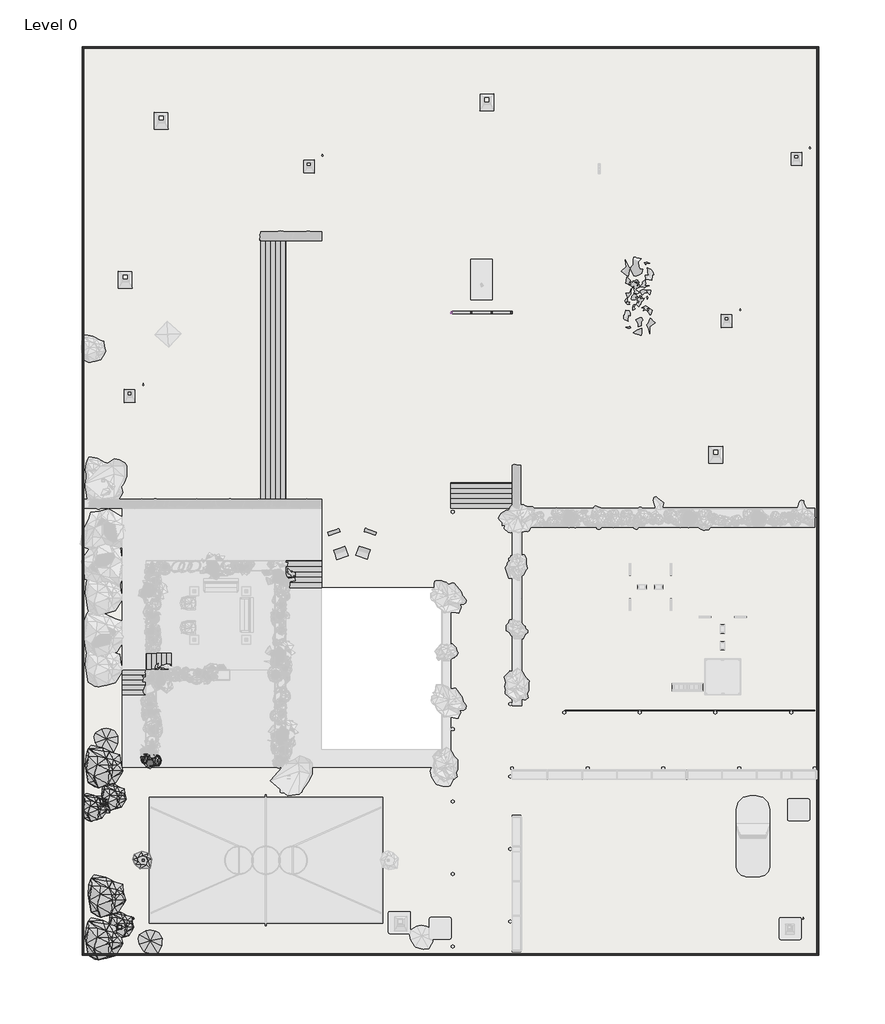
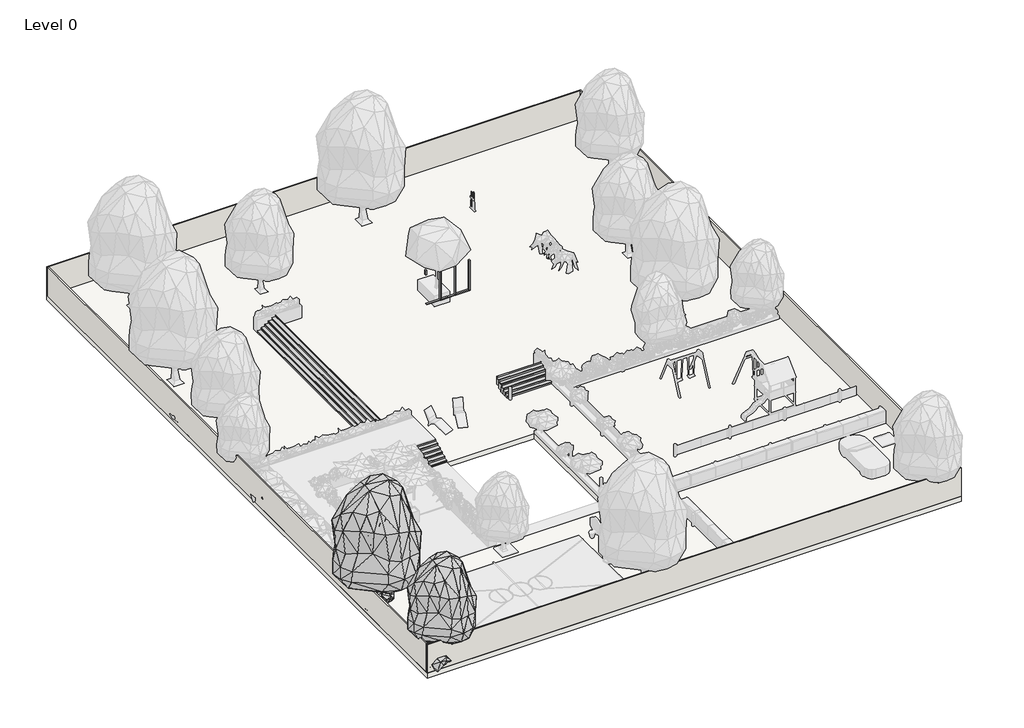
# One storey, part 1 of 4: 16 geographic elements, 7 members, 5 stair flights, 4 walls, 1 slab.
"""IFC4 building model written with IfcOpenShell, lengths in millimetres."""

from ifc_helpers import new_model, si_unit, frame, origin, origin_with_axes, place, context, project, spatial, polyline, outline, extrude, faceted_brep, transform, mapped, element, save
from components import geographic_element_f069a1d7, geographic_element_ee225f17, geographic_element_9647795e, geographic_element_db24e404, geographic_element_71cebea8, geographic_element_228c287f, geographic_element_56f19f58, enscape_assetdefinition_basketball_hoop_001_enscape_40e17c42, enscape_assetdefinition_bush_025_fern_enscape_5cccd865, enscape_assetdefinition_bush_030_grass_enscape_458df57b, enscape_assetdefinition_bush_031_grass_enscape_dda4791a, rectangular_mullion_rectangular_mullion_1_f0fea5a5, rectangular_mullion_rectangular_mullion_1_f5ac44b7, rectangular_mullion_rectangular_mullion_1_ee409385, rectangular_mullion_rectangular_mullion_1_09fd8405, rectangular_mullion_rectangular_mullion_1_2f44623a

model = new_model("IFC4")

# Units and contexts
model_context = context("Model", 3, world=origin())
ifc_project = project(units=[si_unit("LENGTHUNIT", "METRE", prefix="MILLI")], contexts=[model_context])

# Site, building, storey
site = spatial("IfcSite", under=ifc_project)
building = spatial("IfcBuilding", under=site)
storey = spatial("IfcBuildingStorey", under=building, Name="Level 0", Elevation=0.0)

# Geographic elements
placement = place(None, origin())
geographic_element_shape = geographic_element_f069a1d7(model_context)
element("IfcGeographicElement", 1, ObjectType="Enscape AssetDefinition - Creeper Plant 016 Bower Vine : Enscape AssetDefinition - Creeper Plant 016 Bower Vine", at=placement, inside=storey, context=model_context, shape_type="MappedRepresentation", body=[
    mapped(geographic_element_shape, transform((-3656.8662216, -16198.9668439, 950.0), x_axis=(0.0, -1.0, 0.0), y_axis=(1.0, 0.0, 0.0), z_axis=(0.0, 0.0, 1.0))),
])
geographic_element_2_shape = geographic_element_ee225f17(model_context)
element("IfcGeographicElement", 2, ObjectType="Enscape AssetDefinition - Flower 086 Cross-leaved Heath : Enscape AssetDefinition - Flower 086 Cross-leaved Heath 2", at=placement, inside=storey, context=model_context, shape_type="MappedRepresentation", body=[
    mapped(geographic_element_2_shape, transform((-3441.3358285, -16440.9854919, 950.0), x_axis=(1.0, 0.0, 0.0), y_axis=(0.0, 1.0, 0.0), z_axis=(0.0, 0.0, 1.0))),
])
geographic_element_3_shape = geographic_element_9647795e(model_context)
element("IfcGeographicElement", 3, ObjectType="Enscape AssetDefinition - Creeper Plant 015 Bower Vine : Enscape AssetDefinition - Creeper Plant 015 Bower Vine", at=placement, inside=storey, context=model_context, shape_type="MappedRepresentation", body=[
    mapped(geographic_element_3_shape, transform((-3056.8662216, -16275.3414027, 950.0), x_axis=(0.0, 1.0, 0.0), y_axis=(-1.0, 0.0, 0.0), z_axis=(0.0, 0.0, 1.0))),
])
geographic_element_4_shape = geographic_element_db24e404(model_context)
element("IfcGeographicElement", 4, ObjectType="Enscape AssetDefinition - Evergreen Tree 066 Lophostemon : Enscape AssetDefinition - Evergreen Tree 066 Lophostemon", at=placement, inside=storey, context=model_context, shape_type="MappedRepresentation", body=[
    mapped(geographic_element_4_shape, transform((-5056.8662216, -25633.0793342, 0.0), x_axis=(1.0, 0.0, 0.0), y_axis=(0.0, 1.0, 0.0), z_axis=(0.0, 0.0, 1.0))),
])
geographic_element_5_shape = geographic_element_71cebea8(model_context)
element("IfcGeographicElement", 5, ObjectType="Enscape AssetDefinition - Bush 012 English Laurel : Enscape AssetDefinition - Bush 012 English Laurel", at=placement, inside=storey, context=model_context, shape_type="MappedRepresentation", body=[
    mapped(geographic_element_5_shape, transform((-6010.1328373, -16585.7472574, 0.0), x_axis=(-0.7796599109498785, 0.626203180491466, 0.0), y_axis=(-0.626203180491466, -0.7796599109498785, 0.0), z_axis=(0.0, 0.0, 1.0))),
])
element("IfcGeographicElement", 6, ObjectType="Enscape AssetDefinition - Bush 012 English Laurel : Enscape AssetDefinition - Bush 012 English Laurel", at=placement, inside=storey, context=model_context, shape_type="MappedRepresentation", body=[
    mapped(geographic_element_5_shape, transform((-5853.2977099, -23796.0253008, 0.0), x_axis=(-0.7796599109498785, 0.626203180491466, 0.0), y_axis=(-0.626203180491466, -0.7796599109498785, 0.0), z_axis=(0.0, 0.0, 1.0))),
])
element("IfcGeographicElement", 7, ObjectType="Enscape AssetDefinition - Bush 012 English Laurel : Enscape AssetDefinition - Bush 012 English Laurel", at=placement, inside=storey, context=model_context, shape_type="MappedRepresentation", body=[
    mapped(geographic_element_5_shape, transform((-6010.1328373, -26185.7472574, 0.0), x_axis=(-0.7796599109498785, 0.626203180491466, 0.0), y_axis=(-0.626203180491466, -0.7796599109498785, 0.0), z_axis=(0.0, 0.0, 1.0))),
])
geographic_element_6_shape = geographic_element_228c287f(model_context)
element("IfcGeographicElement", 8, ObjectType="Enscape AssetDefinition - Bush 012 English Laurel : Enscape AssetDefinition - Bush 012 English Laurel 2", at=placement, inside=storey, context=model_context, shape_type="MappedRepresentation", body=[
    mapped(geographic_element_6_shape, transform((-6517.7916128, -18872.4537445, 0.0), x_axis=(-0.7796599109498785, 0.626203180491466, 0.0), y_axis=(-0.626203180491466, -0.7796599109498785, 0.0), z_axis=(0.0, 0.0, 1.0))),
])
element("IfcGeographicElement", 9, ObjectType="Enscape AssetDefinition - Bush 012 English Laurel : Enscape AssetDefinition - Bush 012 English Laurel 2", at=placement, inside=storey, context=model_context, shape_type="MappedRepresentation", body=[
    mapped(geographic_element_6_shape, transform((-5444.7004155, -18252.9042528, 0.0), x_axis=(-0.7796599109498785, 0.626203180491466, 0.0), y_axis=(-0.626203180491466, -0.7796599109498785, 0.0), z_axis=(0.0, 0.0, 1.0))),
])
element("IfcGeographicElement", 10, ObjectType="Enscape AssetDefinition - Bush 012 English Laurel : Enscape AssetDefinition - Bush 012 English Laurel 2", at=placement, inside=storey, context=model_context, shape_type="MappedRepresentation", body=[
    mapped(geographic_element_6_shape, transform((-5023.3671696, -25397.2769616, 0.0), x_axis=(-0.7796599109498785, 0.626203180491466, 0.0), y_axis=(-0.626203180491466, -0.7796599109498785, 0.0), z_axis=(0.0, 0.0, 1.0))),
])
geographic_element_7_shape = geographic_element_56f19f58(model_context)
element("IfcGeographicElement", 11, ObjectType="Enscape AssetDefinition - Evergreen Tree 066 Lophostemon : Enscape AssetDefinition - Evergreen Tree 066 Lophostemon 4", at=placement, inside=storey, context=model_context, shape_type="MappedRepresentation", body=[
    mapped(geographic_element_7_shape, transform((-5992.8294862, -18633.0793342, 0.0), x_axis=(1.0, 0.0, 0.0), y_axis=(0.0, 1.0, 0.0), z_axis=(0.0, 0.0, 1.0))),
])
enscape_assetdefinition_basketball_hoop_001_enscape_shape = enscape_assetdefinition_basketball_hoop_001_enscape_40e17c42(model_context)
element("IfcGeographicElement", 12, ObjectType="Enscape AssetDefinition - Basketball Hoop 001 : Enscape AssetDefinition - Basketball Hoop 001", at=placement, inside=storey, context=model_context, shape_type="MappedRepresentation", body=[
    mapped(enscape_assetdefinition_basketball_hoop_001_enscape_shape, transform((-3777.0670192, -21833.0793342, 0.0), x_axis=(0.0, 1.0, 0.0), y_axis=(-1.0, 0.0, 0.0), z_axis=(0.0, 0.0, 1.0))),
])
enscape_assetdefinition_bush_025_fern_enscape_shape = enscape_assetdefinition_bush_025_fern_enscape_5cccd865(model_context)
element("IfcGeographicElement", 13, ObjectType="Enscape AssetDefinition - Bush 025 Fern : Enscape AssetDefinition - Bush 025 Fern 3", at=placement, inside=storey, context=model_context, shape_type="MappedRepresentation", body=[
    mapped(enscape_assetdefinition_bush_025_fern_enscape_shape, transform((-3349.2962281, -16275.3414027, 761.4393554), x_axis=(0.0, -1.0, 0.0), y_axis=(1.0, 0.0, 0.0), z_axis=(0.0, 0.0, 1.0))),
])
enscape_assetdefinition_bush_030_grass_enscape_shape = enscape_assetdefinition_bush_030_grass_enscape_458df57b(model_context)
element("IfcGeographicElement", 14, ObjectType="Enscape AssetDefinition - Bush 030 Grass : Enscape AssetDefinition - Bush 030 Grass", at=placement, inside=storey, context=model_context, shape_type="MappedRepresentation", body=[
    mapped(enscape_assetdefinition_bush_030_grass_enscape_shape, transform((-3836.8662216, -21833.0793342, 0.0), x_axis=(1.0, 0.0, 0.0), y_axis=(0.0, 1.0, 0.0), z_axis=(0.0, 0.0, 1.0))),
])
enscape_assetdefinition_bush_031_grass_enscape_shape = enscape_assetdefinition_bush_031_grass_enscape_dda4791a(model_context)
element("IfcGeographicElement", 15, ObjectType="Enscape AssetDefinition - Bush 031 Grass : Enscape AssetDefinition - Bush 031 Grass", at=placement, inside=storey, context=model_context, shape_type="MappedRepresentation", body=[
    mapped(enscape_assetdefinition_bush_031_grass_enscape_shape, transform((-5856.8662216, -15144.7630328, 0.0), x_axis=(1.0, 0.0, 0.0), y_axis=(0.0, 1.0, 0.0), z_axis=(0.0, 0.0, 1.0))),
])
element("IfcGeographicElement", 16, ObjectType="Enscape AssetDefinition - Bush 031 Grass : Enscape AssetDefinition - Bush 031 Grass", at=placement, inside=storey, context=model_context, shape_type="MappedRepresentation", body=[
    mapped(enscape_assetdefinition_bush_031_grass_enscape_shape, transform((-3399.9708281, -26377.6231396, 0.0), x_axis=(1.0, 0.0, 0.0), y_axis=(0.0, 1.0, 0.0), z_axis=(0.0, 0.0, 1.0))),
])

# Members
rectangular_mullion_rectangular_mullion_1_shape = rectangular_mullion_rectangular_mullion_1_f0fea5a5(model_context)
element("IfcMember", 17, ObjectType="Rectangular Mullion : Rectangular Mullion 1", at=placement, inside=storey, context=model_context, shape_type="MappedRepresentation", body=[
    mapped(rectangular_mullion_rectangular_mullion_1_shape, transform((15609.4671116, 8666.9206658, 1000.0), x_axis=(1.0, 0.0, 0.0), y_axis=(0.0, -1.0, 0.0), z_axis=(0.0, 0.0, -1.0))),
])
element("IfcMember", 18, ObjectType="Rectangular Mullion : Rectangular Mullion 1", at=placement, inside=storey, context=model_context, shape_type="MappedRepresentation", body=[
    mapped(rectangular_mullion_rectangular_mullion_1_shape, transform((14475.8004451, 8666.9206658, 1000.0), x_axis=(1.0, 0.0, 0.0), y_axis=(0.0, -1.0, 0.0), z_axis=(0.0, 0.0, -1.0))),
])
rectangular_mullion_rectangular_mullion_1_2_shape = rectangular_mullion_rectangular_mullion_1_f5ac44b7(model_context)
element("IfcMember", 19, ObjectType="Rectangular Mullion : Rectangular Mullion 1", at=placement, inside=storey, context=model_context, shape_type="MappedRepresentation", body=[
    mapped(rectangular_mullion_rectangular_mullion_1_2_shape, transform((13342.1337784, 8666.9206658, 3800.0), x_axis=(-1.0, 0.0, 0.0), y_axis=(0.0, -1.0, 0.0), z_axis=(0.0, 0.0, 1.0))),
])
rectangular_mullion_rectangular_mullion_1_3_shape = rectangular_mullion_rectangular_mullion_1_ee409385(model_context)
element("IfcMember", 20, ObjectType="Rectangular Mullion : Rectangular Mullion 1", at=placement, inside=storey, context=model_context, shape_type="MappedRepresentation", body=[
    mapped(rectangular_mullion_rectangular_mullion_1_3_shape, transform((16743.1337784, 8666.9206658, 1000.0), x_axis=(1.0, 0.0, 0.0), y_axis=(0.0, -1.0, 0.0), z_axis=(0.0, 0.0, -1.0))),
])
rectangular_mullion_rectangular_mullion_1_4_shape = rectangular_mullion_rectangular_mullion_1_09fd8405(model_context)
element("IfcMember", 21, ObjectType="Rectangular Mullion : Rectangular Mullion 1", at=placement, inside=storey, context=model_context, shape_type="MappedRepresentation", body=[
    mapped(rectangular_mullion_rectangular_mullion_1_4_shape, transform((15641.2171116, 8666.9206658, 1000.0), x_axis=(0.0, 0.0, -1.0), y_axis=(0.0, -1.0, 0.0), z_axis=(-1.0, 0.0, 0.0))),
])
element("IfcMember", 22, ObjectType="Rectangular Mullion : Rectangular Mullion 1", at=placement, inside=storey, context=model_context, shape_type="MappedRepresentation", body=[
    mapped(rectangular_mullion_rectangular_mullion_1_4_shape, transform((13405.6337784, 8666.9206658, 1000.0), x_axis=(0.0, 0.0, -1.0), y_axis=(0.0, -1.0, 0.0), z_axis=(-1.0, 0.0, 0.0))),
])
rectangular_mullion_rectangular_mullion_1_5_shape = rectangular_mullion_rectangular_mullion_1_2f44623a(model_context)
element("IfcMember", 23, ObjectType="Rectangular Mullion : Rectangular Mullion 1", at=placement, inside=storey, context=model_context, shape_type="MappedRepresentation", body=[
    mapped(rectangular_mullion_rectangular_mullion_1_5_shape, transform((14507.5504451, 8666.9206658, 1000.0), x_axis=(0.0, 0.0, -1.0), y_axis=(0.0, -1.0, 0.0), z_axis=(-1.0, 0.0, 0.0))),
])

# Slab
element("IfcSlab", 24, ObjectType="Concrete Slab - 6\"", at=placement, inside=storey, context=model_context, shape_type="SweptSolid", body=[
    extrude(outline(polyline([(-7192.8294862, 23466.9206658), (33807.1705138, 23466.9206658), (33807.1705138, -27133.0793342), (-7192.8294862, -27133.0793342), (-7192.8294862, 23466.9206658)]), holes=[polyline([(12843.1337784, -6658.2564752), (6143.1337784, -6658.2564752), (6143.1337784, -15658.2564752), (12843.1337784, -15658.2564752), (12843.1337784, -6658.2564752)])]), frame((0.0, 0.0, -400.0), z_axis=(0.0, 0.0, 1.0), x_axis=(1.0, 0.0, 0.0)), (0.0, 0.0, 1.0), 400.0),
])

# Stair flights
element("IfcStairFlight", 25, ObjectType="3/4\" Nosing", at=placement, inside=storey, context=model_context, shape_type="SolidModel", body=[
    faceted_brep([(13343.1337784, -1947.3293342, 115.8666667), (13343.1337784, -2226.7293342, 115.8666667), (16743.1337784, -2226.7293342, 115.8666667), (16743.1337784, -1947.3293342, 115.8666667), (13343.1337784, -1947.3293342, 0.0), (13343.1337784, -2226.7293342, 0.0), (16743.1337784, -2226.7293342, 0.0), (16743.1337784, -1947.3293342, 0.0), (13343.1337784, -1667.9293342, 282.5333333), (13343.1337784, -1947.3293342, 282.5333333), (16743.1337784, -1947.3293342, 282.5333333), (16743.1337784, -1667.9293342, 282.5333333), (13343.1337784, -1667.9293342, 0.0), (16743.1337784, -1667.9293342, 0.0), (13343.1337784, -1388.5293342, 449.2), (13343.1337784, -1667.9293342, 449.2), (16743.1337784, -1667.9293342, 449.2), (16743.1337784, -1388.5293342, 449.2), (13343.1337784, -1388.5293342, 0.0), (16743.1337784, -1388.5293342, 0.0), (13343.1337784, -1109.1293342, 615.8666667), (13343.1337784, -1388.5293342, 615.8666667), (16743.1337784, -1388.5293342, 615.8666667), (16743.1337784, -1109.1293342, 615.8666667), (13343.1337784, -1109.1293342, 149.2), (13343.1337784, -1367.9293342, 149.2), (13343.1337784, -1367.9293342, 0.0), (16743.1337784, -1367.9293342, 0.0), (16743.1337784, -1367.9293342, 149.2), (16743.1337784, -1109.1293342, 149.2), (13343.1337784, -829.7293342, 782.5333333), (13343.1337784, -1109.1293342, 782.5333333), (16743.1337784, -1109.1293342, 782.5333333), (16743.1337784, -829.7293342, 782.5333333), (13343.1337784, -829.7293342, 315.8666667), (13343.1337784, -1088.5293342, 315.8666667), (13343.1337784, -1088.5293342, 149.2), (16743.1337784, -1088.5293342, 149.2), (16743.1337784, -1088.5293342, 315.8666667), (16743.1337784, -829.7293342, 315.8666667)], [[[0, 1, 2, 3]], [[1, 0, 4, 5]], [[2, 1, 5, 6]], [[3, 2, 6, 7]], [[8, 9, 10, 11]], [[4, 0, 9, 8, 12]], [[0, 3, 10, 9]], [[3, 7, 13, 11, 10]], [[14, 15, 16, 17]], [[12, 8, 15, 14, 18]], [[8, 11, 16, 15]], [[11, 13, 19, 17, 16]], [[20, 21, 22, 23]], [[18, 14, 21, 20, 24, 25, 26]], [[14, 17, 22, 21]], [[17, 19, 27, 28, 29, 23, 22]], [[30, 31, 32, 33]], [[31, 30, 34, 35, 36, 24, 20]], [[20, 23, 32, 31]], [[33, 32, 23, 29, 37, 38, 39]], [[30, 33, 39, 34]], [[5, 4, 12, 18, 26, 27, 19, 13, 7, 6]], [[25, 28, 27, 26]], [[36, 37, 29, 28, 25, 24]], [[37, 36, 35, 38]], [[38, 35, 34, 39]]]),
    extrude(outline(polyline([(13343.1337784, -1953.6793342), (16743.1337784, -1953.6793342), (16743.1337784, -2233.0793342), (13343.1337784, -2233.0793342), (13343.1337784, -1953.6793342)])), frame((0.0, 0.0, 115.8666667), z_axis=(0.0, 0.0, 1.0), x_axis=(1.0, 0.0, 0.0)), (0.0, 0.0, 1.0), 50.8),
    extrude(outline(polyline([(16743.1337784, -2226.7293342), (16743.1337784, -2233.0793342), (13343.1337784, -2233.0793342), (13343.1337784, -2226.7293342), (16743.1337784, -2226.7293342)])), origin_with_axes(), (0.0, 0.0, 1.0), 115.8666667),
    extrude(outline(polyline([(16743.1337784, -1947.3293342), (16743.1337784, -1953.6793342), (13343.1337784, -1953.6793342), (13343.1337784, -1947.3293342), (16743.1337784, -1947.3293342)])), frame((0.0, 0.0, 115.8666667), z_axis=(0.0, 0.0, 1.0), x_axis=(1.0, 0.0, 0.0)), (0.0, 0.0, 1.0), 166.6666667),
    extrude(outline(polyline([(13343.1337784, -1674.2793342), (16743.1337784, -1674.2793342), (16743.1337784, -1953.6793342), (13343.1337784, -1953.6793342), (13343.1337784, -1674.2793342)])), frame((0.0, 0.0, 282.5333333), z_axis=(0.0, 0.0, 1.0), x_axis=(1.0, 0.0, 0.0)), (0.0, 0.0, 1.0), 50.8),
    extrude(outline(polyline([(16743.1337784, -1667.9293342), (16743.1337784, -1674.2793342), (13343.1337784, -1674.2793342), (13343.1337784, -1667.9293342), (16743.1337784, -1667.9293342)])), frame((0.0, 0.0, 282.5333333), z_axis=(0.0, 0.0, 1.0), x_axis=(1.0, 0.0, 0.0)), (0.0, 0.0, 1.0), 166.6666667),
    extrude(outline(polyline([(13343.1337784, -1394.8793342), (16743.1337784, -1394.8793342), (16743.1337784, -1674.2793342), (13343.1337784, -1674.2793342), (13343.1337784, -1394.8793342)])), frame((0.0, 0.0, 449.2), z_axis=(0.0, 0.0, 1.0), x_axis=(1.0, 0.0, 0.0)), (0.0, 0.0, 1.0), 50.8),
    extrude(outline(polyline([(16743.1337784, -1388.5293342), (16743.1337784, -1394.8793342), (13343.1337784, -1394.8793342), (13343.1337784, -1388.5293342), (16743.1337784, -1388.5293342)])), frame((0.0, 0.0, 449.2), z_axis=(0.0, 0.0, 1.0), x_axis=(1.0, 0.0, 0.0)), (0.0, 0.0, 1.0), 166.6666667),
    extrude(outline(polyline([(13343.1337784, -1115.4793342), (16743.1337784, -1115.4793342), (16743.1337784, -1394.8793342), (13343.1337784, -1394.8793342), (13343.1337784, -1115.4793342)])), frame((0.0, 0.0, 615.8666667), z_axis=(0.0, 0.0, 1.0), x_axis=(1.0, 0.0, 0.0)), (0.0, 0.0, 1.0), 50.8),
    extrude(outline(polyline([(16743.1337784, -1109.1293342), (16743.1337784, -1115.4793342), (13343.1337784, -1115.4793342), (13343.1337784, -1109.1293342), (16743.1337784, -1109.1293342)])), frame((0.0, 0.0, 615.8666667), z_axis=(0.0, 0.0, 1.0), x_axis=(1.0, 0.0, 0.0)), (0.0, 0.0, 1.0), 166.6666667),
    extrude(outline(polyline([(16743.1337784, -829.7293342), (16743.1337784, -836.0793342), (13343.1337784, -836.0793342), (13343.1337784, -829.7293342), (16743.1337784, -829.7293342)])), frame((0.0, 0.0, 782.5333333), z_axis=(0.0, 0.0, 1.0), x_axis=(1.0, 0.0, 0.0)), (0.0, 0.0, 1.0), 166.6666667),
    extrude(outline(polyline([(13343.1337784, -836.0793342), (16743.1337784, -836.0793342), (16743.1337784, -1115.4793342), (13343.1337784, -1115.4793342), (13343.1337784, -836.0793342)])), frame((0.0, 0.0, 782.5333333), z_axis=(0.0, 0.0, 1.0), x_axis=(1.0, 0.0, 0.0)), (0.0, 0.0, 1.0), 50.8),
])
element("IfcStairFlight", 26, ObjectType="3/4\" Nosing", at=placement, inside=storey, context=model_context, shape_type="SolidModel", body=[
    faceted_brep([(4142.6806272, -6351.9064752, 115.8666667), (4142.6806272, -6651.9064752, 115.8666667), (6142.6806272, -6651.9064752, 115.8666667), (6142.6806272, -6351.9064752, 115.8666667), (4142.6806272, -6351.9064752, 0.0), (4142.6806272, -6651.9064752, 0.0), (6142.6806272, -6651.9064752, 0.0), (6142.6806272, -6351.9064752, 0.0), (4142.6806272, -6051.9064752, 282.5333333), (4142.6806272, -6351.9064752, 282.5333333), (6142.6806272, -6351.9064752, 282.5333333), (6142.6806272, -6051.9064752, 282.5333333), (4142.6806272, -6051.9064752, 0.0), (6142.6806272, -6051.9064752, 0.0), (4142.6806272, -5751.9064752, 449.2), (4142.6806272, -6051.9064752, 449.2), (6142.6806272, -6051.9064752, 449.2), (6142.6806272, -5751.9064752, 449.2), (4142.6806272, -5751.9064752, 149.2), (4142.6806272, -5751.9064752, 0.0), (6142.6806272, -5751.9064752, 0.0), (6142.6806272, -5751.9064752, 149.2), (4142.6806272, -5451.9064752, 615.8666667), (4142.6806272, -5751.9064752, 615.8666667), (6142.6806272, -5751.9064752, 615.8666667), (6142.6806272, -5451.9064752, 615.8666667), (4142.6806272, -5451.9064752, 315.8666667), (4142.6806272, -5451.9064752, 149.2), (6142.6806272, -5451.9064752, 149.2), (6142.6806272, -5451.9064752, 315.8666667), (4142.6806272, -5151.9064752, 782.5333333), (4142.6806272, -5451.9064752, 782.5333333), (6142.6806272, -5451.9064752, 782.5333333), (6142.6806272, -5151.9064752, 782.5333333), (4142.6806272, -5151.9064752, 482.5333333), (4142.6806272, -5151.9064752, 315.8666667), (6142.6806272, -5151.9064752, 315.8666667), (6142.6806272, -5151.9064752, 482.5333333)], [[[0, 1, 2, 3]], [[1, 0, 4, 5]], [[2, 1, 5, 6]], [[3, 2, 6, 7]], [[8, 9, 10, 11]], [[4, 0, 9, 8, 12]], [[0, 3, 10, 9]], [[3, 7, 13, 11, 10]], [[14, 15, 16, 17]], [[12, 8, 15, 14, 18, 19]], [[8, 11, 16, 15]], [[11, 13, 20, 21, 17, 16]], [[22, 23, 24, 25]], [[23, 22, 26, 27, 18, 14]], [[14, 17, 24, 23]], [[25, 24, 17, 21, 28, 29]], [[30, 31, 32, 33]], [[31, 30, 34, 35, 26, 22]], [[22, 25, 32, 31]], [[33, 32, 25, 29, 36, 37]], [[30, 33, 37, 36, 35, 34]], [[5, 4, 12, 19, 20, 13, 7, 6]], [[18, 21, 20, 19]], [[27, 28, 21, 18]], [[28, 27, 26, 29]], [[29, 26, 35, 36]]]),
    extrude(outline(polyline([(4142.6806272, -6358.2564752), (6142.6806272, -6358.2564752), (6142.6806272, -6658.2564752), (4142.6806272, -6658.2564752), (4142.6806272, -6358.2564752)])), frame((0.0, 0.0, 115.8666667), z_axis=(0.0, 0.0, 1.0), x_axis=(1.0, 0.0, 0.0)), (0.0, 0.0, 1.0), 50.8),
    extrude(outline(polyline([(6142.6806272, -6651.9064752), (6142.6806272, -6658.2564752), (4142.6806272, -6658.2564752), (4142.6806272, -6651.9064752), (6142.6806272, -6651.9064752)])), origin_with_axes(), (0.0, 0.0, 1.0), 115.8666667),
    extrude(outline(polyline([(6142.6806272, -6351.9064752), (6142.6806272, -6358.2564752), (4142.6806272, -6358.2564752), (4142.6806272, -6351.9064752), (6142.6806272, -6351.9064752)])), frame((0.0, 0.0, 115.8666667), z_axis=(0.0, 0.0, 1.0), x_axis=(1.0, 0.0, 0.0)), (0.0, 0.0, 1.0), 166.6666667),
    extrude(outline(polyline([(4142.6806272, -6058.2564752), (6142.6806272, -6058.2564752), (6142.6806272, -6358.2564752), (4142.6806272, -6358.2564752), (4142.6806272, -6058.2564752)])), frame((0.0, 0.0, 282.5333333), z_axis=(0.0, 0.0, 1.0), x_axis=(1.0, 0.0, 0.0)), (0.0, 0.0, 1.0), 50.8),
    extrude(outline(polyline([(6142.6806272, -6051.9064752), (6142.6806272, -6058.2564752), (4142.6806272, -6058.2564752), (4142.6806272, -6051.9064752), (6142.6806272, -6051.9064752)])), frame((0.0, 0.0, 282.5333333), z_axis=(0.0, 0.0, 1.0), x_axis=(1.0, 0.0, 0.0)), (0.0, 0.0, 1.0), 166.6666667),
    extrude(outline(polyline([(4142.6806272, -5758.2564752), (6142.6806272, -5758.2564752), (6142.6806272, -6058.2564752), (4142.6806272, -6058.2564752), (4142.6806272, -5758.2564752)])), frame((0.0, 0.0, 449.2), z_axis=(0.0, 0.0, 1.0), x_axis=(1.0, 0.0, 0.0)), (0.0, 0.0, 1.0), 50.8),
    extrude(outline(polyline([(6142.6806272, -5751.9064752), (6142.6806272, -5758.2564752), (4142.6806272, -5758.2564752), (4142.6806272, -5751.9064752), (6142.6806272, -5751.9064752)])), frame((0.0, 0.0, 449.2), z_axis=(0.0, 0.0, 1.0), x_axis=(1.0, 0.0, 0.0)), (0.0, 0.0, 1.0), 166.6666667),
    extrude(outline(polyline([(4142.6806272, -5458.2564752), (6142.6806272, -5458.2564752), (6142.6806272, -5758.2564752), (4142.6806272, -5758.2564752), (4142.6806272, -5458.2564752)])), frame((0.0, 0.0, 615.8666667), z_axis=(0.0, 0.0, 1.0), x_axis=(1.0, 0.0, 0.0)), (0.0, 0.0, 1.0), 50.8),
    extrude(outline(polyline([(6142.6806272, -5451.9064752), (6142.6806272, -5458.2564752), (4142.6806272, -5458.2564752), (4142.6806272, -5451.9064752), (6142.6806272, -5451.9064752)])), frame((0.0, 0.0, 615.8666667), z_axis=(0.0, 0.0, 1.0), x_axis=(1.0, 0.0, 0.0)), (0.0, 0.0, 1.0), 166.6666667),
    extrude(outline(polyline([(6142.6806272, -5151.9064752), (6142.6806272, -5158.2564752), (4142.6806272, -5158.2564752), (4142.6806272, -5151.9064752), (6142.6806272, -5151.9064752)])), frame((0.0, 0.0, 782.5333333), z_axis=(0.0, 0.0, 1.0), x_axis=(1.0, 0.0, 0.0)), (0.0, 0.0, 1.0), 166.6666667),
    extrude(outline(polyline([(4142.6806272, -5158.2564752), (6142.6806272, -5158.2564752), (6142.6806272, -5458.2564752), (4142.6806272, -5458.2564752), (4142.6806272, -5158.2564752)])), frame((0.0, 0.0, 782.5333333), z_axis=(0.0, 0.0, 1.0), x_axis=(1.0, 0.0, 0.0)), (0.0, 0.0, 1.0), 50.8),
])
element("IfcStairFlight", 27, ObjectType="3/4\" Nosing", at=placement, inside=storey, context=model_context, shape_type="SolidModel", body=[
    faceted_brep([(-2520.2162216, -11218.4130328, 282.5333333), (-2240.8162216, -11218.4130328, 282.5333333), (-2240.8162216, -10304.0130328, 282.5333333), (-2520.2162216, -10304.0130328, 282.5333333), (-2520.2162216, -11218.4130328, 200.0), (-2240.8162216, -11218.4130328, 200.0), (-2240.8162216, -10304.0130328, 200.0), (-2520.2162216, -10304.0130328, 200.0), (-2799.6162216, -11218.4130328, 415.8666667), (-2520.2162216, -11218.4130328, 415.8666667), (-2520.2162216, -10304.0130328, 415.8666667), (-2799.6162216, -10304.0130328, 415.8666667), (-2799.6162216, -11218.4130328, 200.0), (-2799.6162216, -10304.0130328, 200.0), (-3079.0162216, -11218.4130328, 549.2), (-2799.6162216, -11218.4130328, 549.2), (-2799.6162216, -10304.0130328, 549.2), (-3079.0162216, -10304.0130328, 549.2), (-3079.0162216, -11218.4130328, 200.0), (-3079.0162216, -10304.0130328, 200.0), (-3358.4162216, -11218.4130328, 682.5333333), (-3079.0162216, -11218.4130328, 682.5333333), (-3079.0162216, -10304.0130328, 682.5333333), (-3358.4162216, -10304.0130328, 682.5333333), (-3358.4162216, -11218.4130328, 249.2), (-3099.6162216, -11218.4130328, 249.2), (-3099.6162216, -11218.4130328, 200.0), (-3099.6162216, -10304.0130328, 200.0), (-3099.6162216, -10304.0130328, 249.2), (-3358.4162216, -10304.0130328, 249.2), (-3637.8162216, -11218.4130328, 815.8666667), (-3358.4162216, -11218.4130328, 815.8666667), (-3358.4162216, -10304.0130328, 815.8666667), (-3637.8162216, -10304.0130328, 815.8666667), (-3637.8162216, -11218.4130328, 382.5333333), (-3379.0162216, -11218.4130328, 382.5333333), (-3379.0162216, -11218.4130328, 249.2), (-3379.0162216, -10304.0130328, 249.2), (-3379.0162216, -10304.0130328, 382.5333333), (-3637.8162216, -10304.0130328, 382.5333333)], [[[0, 1, 2, 3]], [[1, 0, 4, 5]], [[2, 1, 5, 6]], [[3, 2, 6, 7]], [[8, 9, 10, 11]], [[4, 0, 9, 8, 12]], [[0, 3, 10, 9]], [[3, 7, 13, 11, 10]], [[14, 15, 16, 17]], [[12, 8, 15, 14, 18]], [[8, 11, 16, 15]], [[11, 13, 19, 17, 16]], [[20, 21, 22, 23]], [[18, 14, 21, 20, 24, 25, 26]], [[14, 17, 22, 21]], [[17, 19, 27, 28, 29, 23, 22]], [[30, 31, 32, 33]], [[31, 30, 34, 35, 36, 24, 20]], [[20, 23, 32, 31]], [[33, 32, 23, 29, 37, 38, 39]], [[30, 33, 39, 34]], [[5, 4, 12, 18, 26, 27, 19, 13, 7, 6]], [[25, 28, 27, 26]], [[36, 37, 29, 28, 25, 24]], [[37, 36, 35, 38]], [[38, 35, 34, 39]]]),
    extrude(outline(polyline([(-2513.8662216, -11218.4130328), (-2513.8662216, -10304.0130328), (-2234.4662216, -10304.0130328), (-2234.4662216, -11218.4130328), (-2513.8662216, -11218.4130328)])), frame((0.0, 0.0, 282.5333333), z_axis=(0.0, 0.0, 1.0), x_axis=(1.0, 0.0, 0.0)), (0.0, 0.0, 1.0), 50.8),
    extrude(outline(polyline([(-2240.8162216, -10304.0130328), (-2234.4662216, -10304.0130328), (-2234.4662216, -11218.4130328), (-2240.8162216, -11218.4130328), (-2240.8162216, -10304.0130328)])), frame((0.0, 0.0, 200.0), z_axis=(0.0, 0.0, 1.0), x_axis=(1.0, 0.0, 0.0)), (0.0, 0.0, 1.0), 82.5333333),
    extrude(outline(polyline([(-2520.2162216, -10304.0130328), (-2513.8662216, -10304.0130328), (-2513.8662216, -11218.4130328), (-2520.2162216, -11218.4130328), (-2520.2162216, -10304.0130328)])), frame((0.0, 0.0, 282.5333333), z_axis=(0.0, 0.0, 1.0), x_axis=(1.0, 0.0, 0.0)), (0.0, 0.0, 1.0), 133.3333333),
    extrude(outline(polyline([(-2793.2662216, -11218.4130328), (-2793.2662216, -10304.0130328), (-2513.8662216, -10304.0130328), (-2513.8662216, -11218.4130328), (-2793.2662216, -11218.4130328)])), frame((0.0, 0.0, 415.8666667), z_axis=(0.0, 0.0, 1.0), x_axis=(1.0, 0.0, 0.0)), (0.0, 0.0, 1.0), 50.8),
    extrude(outline(polyline([(-2799.6162216, -10304.0130328), (-2793.2662216, -10304.0130328), (-2793.2662216, -11218.4130328), (-2799.6162216, -11218.4130328), (-2799.6162216, -10304.0130328)])), frame((0.0, 0.0, 415.8666667), z_axis=(0.0, 0.0, 1.0), x_axis=(1.0, 0.0, 0.0)), (0.0, 0.0, 1.0), 133.3333333),
    extrude(outline(polyline([(-3072.6662216, -11218.4130328), (-3072.6662216, -10304.0130328), (-2793.2662216, -10304.0130328), (-2793.2662216, -11218.4130328), (-3072.6662216, -11218.4130328)])), frame((0.0, 0.0, 549.2), z_axis=(0.0, 0.0, 1.0), x_axis=(1.0, 0.0, 0.0)), (0.0, 0.0, 1.0), 50.8),
    extrude(outline(polyline([(-3079.0162216, -10304.0130328), (-3072.6662216, -10304.0130328), (-3072.6662216, -11218.4130328), (-3079.0162216, -11218.4130328), (-3079.0162216, -10304.0130328)])), frame((0.0, 0.0, 549.2), z_axis=(0.0, 0.0, 1.0), x_axis=(1.0, 0.0, 0.0)), (0.0, 0.0, 1.0), 133.3333333),
    extrude(outline(polyline([(-3352.0662216, -11218.4130328), (-3352.0662216, -10304.0130328), (-3072.6662216, -10304.0130328), (-3072.6662216, -11218.4130328), (-3352.0662216, -11218.4130328)])), frame((0.0, 0.0, 682.5333333), z_axis=(0.0, 0.0, 1.0), x_axis=(1.0, 0.0, 0.0)), (0.0, 0.0, 1.0), 50.8),
    extrude(outline(polyline([(-3358.4162216, -10304.0130328), (-3352.0662216, -10304.0130328), (-3352.0662216, -11218.4130328), (-3358.4162216, -11218.4130328), (-3358.4162216, -10304.0130328)])), frame((0.0, 0.0, 682.5333333), z_axis=(0.0, 0.0, 1.0), x_axis=(1.0, 0.0, 0.0)), (0.0, 0.0, 1.0), 133.3333333),
    extrude(outline(polyline([(-3637.8162216, -10304.0130328), (-3631.4662216, -10304.0130328), (-3631.4662216, -11218.4130328), (-3637.8162216, -11218.4130328), (-3637.8162216, -10304.0130328)])), frame((0.0, 0.0, 815.8666667), z_axis=(0.0, 0.0, 1.0), x_axis=(1.0, 0.0, 0.0)), (0.0, 0.0, 1.0), 133.3333333),
    extrude(outline(polyline([(-3631.4662216, -11218.4130328), (-3631.4662216, -10304.0130328), (-3352.0662216, -10304.0130328), (-3352.0662216, -11218.4130328), (-3631.4662216, -11218.4130328)])), frame((0.0, 0.0, 815.8666667), z_axis=(0.0, 0.0, 1.0), x_axis=(1.0, 0.0, 0.0)), (0.0, 0.0, 1.0), 50.8),
])
element("IfcStairFlight", 28, ObjectType="3/4\" Nosing", at=placement, inside=storey, context=model_context, shape_type="SolidModel", body=[
    faceted_brep([(-4956.8662216, -12336.0130328, 199.2), (-4956.8662216, -12615.4130328, 199.2), (-3656.8662216, -12615.4130328, 199.2), (-3656.8662216, -12336.0130328, 199.2), (-4956.8662216, -12336.0130328, 100.0), (-4956.8662216, -12615.4130328, 100.0), (-3656.8662216, -12615.4130328, 100.0), (-3656.8662216, -12336.0130328, 100.0), (-4956.8662216, -12056.6130328, 349.2), (-4956.8662216, -12336.0130328, 349.2), (-3656.8662216, -12336.0130328, 349.2), (-3656.8662216, -12056.6130328, 349.2), (-4956.8662216, -12056.6130328, 100.0), (-3656.8662216, -12056.6130328, 100.0), (-4956.8662216, -11777.2130328, 499.2), (-4956.8662216, -12056.6130328, 499.2), (-3656.8662216, -12056.6130328, 499.2), (-3656.8662216, -11777.2130328, 499.2), (-4956.8662216, -11777.2130328, 100.0), (-3656.8662216, -11777.2130328, 100.0), (-4956.8662216, -11497.8130328, 649.2), (-4956.8662216, -11777.2130328, 649.2), (-3656.8662216, -11777.2130328, 649.2), (-3656.8662216, -11497.8130328, 649.2), (-4956.8662216, -11497.8130328, 199.2), (-4956.8662216, -11756.6130328, 199.2), (-4956.8662216, -11756.6130328, 100.0), (-3656.8662216, -11756.6130328, 100.0), (-3656.8662216, -11756.6130328, 199.2), (-3656.8662216, -11497.8130328, 199.2), (-4956.8662216, -11218.4130328, 799.2), (-4956.8662216, -11497.8130328, 799.2), (-3656.8662216, -11497.8130328, 799.2), (-3656.8662216, -11218.4130328, 799.2), (-4956.8662216, -11218.4130328, 349.2), (-4956.8662216, -11477.2130328, 349.2), (-4956.8662216, -11477.2130328, 199.2), (-3656.8662216, -11477.2130328, 199.2), (-3656.8662216, -11477.2130328, 349.2), (-3656.8662216, -11218.4130328, 349.2)], [[[0, 1, 2, 3]], [[1, 0, 4, 5]], [[2, 1, 5, 6]], [[3, 2, 6, 7]], [[8, 9, 10, 11]], [[4, 0, 9, 8, 12]], [[0, 3, 10, 9]], [[3, 7, 13, 11, 10]], [[14, 15, 16, 17]], [[12, 8, 15, 14, 18]], [[8, 11, 16, 15]], [[11, 13, 19, 17, 16]], [[20, 21, 22, 23]], [[18, 14, 21, 20, 24, 25, 26]], [[14, 17, 22, 21]], [[17, 19, 27, 28, 29, 23, 22]], [[30, 31, 32, 33]], [[31, 30, 34, 35, 36, 24, 20]], [[20, 23, 32, 31]], [[33, 32, 23, 29, 37, 38, 39]], [[30, 33, 39, 34]], [[5, 4, 12, 18, 26, 27, 19, 13, 7, 6]], [[25, 28, 27, 26]], [[36, 37, 29, 28, 25, 24]], [[37, 36, 35, 38]], [[38, 35, 34, 39]]]),
    extrude(outline(polyline([(-4956.8662216, -12342.3630328), (-3656.8662216, -12342.3630328), (-3656.8662216, -12621.7630328), (-4956.8662216, -12621.7630328), (-4956.8662216, -12342.3630328)])), frame((0.0, 0.0, 199.2), z_axis=(0.0, 0.0, 1.0), x_axis=(1.0, 0.0, 0.0)), (0.0, 0.0, 1.0), 50.8),
    extrude(outline(polyline([(-3656.8662216, -12615.4130328), (-3656.8662216, -12621.7630328), (-4956.8662216, -12621.7630328), (-4956.8662216, -12615.4130328), (-3656.8662216, -12615.4130328)])), frame((0.0, 0.0, 100.0), z_axis=(0.0, 0.0, 1.0), x_axis=(1.0, 0.0, 0.0)), (0.0, 0.0, 1.0), 99.2),
    extrude(outline(polyline([(-3656.8662216, -12336.0130328), (-3656.8662216, -12342.3630328), (-4956.8662216, -12342.3630328), (-4956.8662216, -12336.0130328), (-3656.8662216, -12336.0130328)])), frame((0.0, 0.0, 199.2), z_axis=(0.0, 0.0, 1.0), x_axis=(1.0, 0.0, 0.0)), (0.0, 0.0, 1.0), 150.0),
    extrude(outline(polyline([(-4956.8662216, -12062.9630328), (-3656.8662216, -12062.9630328), (-3656.8662216, -12342.3630328), (-4956.8662216, -12342.3630328), (-4956.8662216, -12062.9630328)])), frame((0.0, 0.0, 349.2), z_axis=(0.0, 0.0, 1.0), x_axis=(1.0, 0.0, 0.0)), (0.0, 0.0, 1.0), 50.8),
    extrude(outline(polyline([(-3656.8662216, -12056.6130328), (-3656.8662216, -12062.9630328), (-4956.8662216, -12062.9630328), (-4956.8662216, -12056.6130328), (-3656.8662216, -12056.6130328)])), frame((0.0, 0.0, 349.2), z_axis=(0.0, 0.0, 1.0), x_axis=(1.0, 0.0, 0.0)), (0.0, 0.0, 1.0), 150.0),
    extrude(outline(polyline([(-4956.8662216, -11783.5630328), (-3656.8662216, -11783.5630328), (-3656.8662216, -12062.9630328), (-4956.8662216, -12062.9630328), (-4956.8662216, -11783.5630328)])), frame((0.0, 0.0, 499.2), z_axis=(0.0, 0.0, 1.0), x_axis=(1.0, 0.0, 0.0)), (0.0, 0.0, 1.0), 50.8),
    extrude(outline(polyline([(-3656.8662216, -11777.2130328), (-3656.8662216, -11783.5630328), (-4956.8662216, -11783.5630328), (-4956.8662216, -11777.2130328), (-3656.8662216, -11777.2130328)])), frame((0.0, 0.0, 499.2), z_axis=(0.0, 0.0, 1.0), x_axis=(1.0, 0.0, 0.0)), (0.0, 0.0, 1.0), 150.0),
    extrude(outline(polyline([(-4956.8662216, -11504.1630328), (-3656.8662216, -11504.1630328), (-3656.8662216, -11783.5630328), (-4956.8662216, -11783.5630328), (-4956.8662216, -11504.1630328)])), frame((0.0, 0.0, 649.2), z_axis=(0.0, 0.0, 1.0), x_axis=(1.0, 0.0, 0.0)), (0.0, 0.0, 1.0), 50.8),
    extrude(outline(polyline([(-3656.8662216, -11497.8130328), (-3656.8662216, -11504.1630328), (-4956.8662216, -11504.1630328), (-4956.8662216, -11497.8130328), (-3656.8662216, -11497.8130328)])), frame((0.0, 0.0, 649.2), z_axis=(0.0, 0.0, 1.0), x_axis=(1.0, 0.0, 0.0)), (0.0, 0.0, 1.0), 150.0),
    extrude(outline(polyline([(-3656.8662216, -11218.4130328), (-3656.8662216, -11224.7630328), (-4956.8662216, -11224.7630328), (-4956.8662216, -11218.4130328), (-3656.8662216, -11218.4130328)])), frame((0.0, 0.0, 799.2), z_axis=(0.0, 0.0, 1.0), x_axis=(1.0, 0.0, 0.0)), (0.0, 0.0, 1.0), 150.0),
    extrude(outline(polyline([(-4956.8662216, -11224.7630328), (-3656.8662216, -11224.7630328), (-3656.8662216, -11504.1630328), (-4956.8662216, -11504.1630328), (-4956.8662216, -11224.7630328)])), frame((0.0, 0.0, 799.2), z_axis=(0.0, 0.0, 1.0), x_axis=(1.0, 0.0, 0.0)), (0.0, 0.0, 1.0), 50.8),
])
element("IfcStairFlight", 29, ObjectType="3/4\" Nosing", at=placement, inside=storey, context=model_context, shape_type="SolidModel", body=[
    faceted_brep([(3031.8837784, 12666.9206658, 115.8666667), (2752.4837784, 12666.9206658, 115.8666667), (2752.4837784, -1733.0793342, 115.8666667), (3031.8837784, -1733.0793342, 115.8666667), (3031.8837784, 12666.9206658, 0.0), (2752.4837784, 12666.9206658, 0.0), (2752.4837784, -1733.0793342, 0.0), (3031.8837784, -1733.0793342, 0.0), (3311.2837784, 12666.9206658, 282.5333333), (3031.8837784, 12666.9206658, 282.5333333), (3031.8837784, -1733.0793342, 282.5333333), (3311.2837784, -1733.0793342, 282.5333333), (3311.2837784, 12666.9206658, 0.0), (3311.2837784, -1733.0793342, 0.0), (3590.6837784, 12666.9206658, 449.2), (3311.2837784, 12666.9206658, 449.2), (3311.2837784, -1733.0793342, 449.2), (3590.6837784, -1733.0793342, 449.2), (3590.6837784, 12666.9206658, 0.0), (3590.6837784, -1733.0793342, 0.0), (3870.0837784, 12666.9206658, 615.8666667), (3590.6837784, 12666.9206658, 615.8666667), (3590.6837784, -1733.0793342, 615.8666667), (3870.0837784, -1733.0793342, 615.8666667), (3870.0837784, 12666.9206658, 149.2), (3611.2837784, 12666.9206658, 149.2), (3611.2837784, 12666.9206658, 0.0), (3611.2837784, -1733.0793342, 0.0), (3611.2837784, -1733.0793342, 149.2), (3870.0837784, -1733.0793342, 149.2), (4149.4837784, 12666.9206658, 782.5333333), (3870.0837784, 12666.9206658, 782.5333333), (3870.0837784, -1733.0793342, 782.5333333), (4149.4837784, -1733.0793342, 782.5333333), (4149.4837784, 12666.9206658, 315.8666667), (3890.6837784, 12666.9206658, 315.8666667), (3890.6837784, 12666.9206658, 149.2), (3890.6837784, -1733.0793342, 149.2), (3890.6837784, -1733.0793342, 315.8666667), (4149.4837784, -1733.0793342, 315.8666667)], [[[0, 1, 2, 3]], [[1, 0, 4, 5]], [[2, 1, 5, 6]], [[3, 2, 6, 7]], [[8, 9, 10, 11]], [[4, 0, 9, 8, 12]], [[0, 3, 10, 9]], [[3, 7, 13, 11, 10]], [[14, 15, 16, 17]], [[12, 8, 15, 14, 18]], [[8, 11, 16, 15]], [[11, 13, 19, 17, 16]], [[20, 21, 22, 23]], [[18, 14, 21, 20, 24, 25, 26]], [[14, 17, 22, 21]], [[17, 19, 27, 28, 29, 23, 22]], [[30, 31, 32, 33]], [[31, 30, 34, 35, 36, 24, 20]], [[20, 23, 32, 31]], [[33, 32, 23, 29, 37, 38, 39]], [[30, 33, 39, 34]], [[5, 4, 12, 18, 26, 27, 19, 13, 7, 6]], [[25, 28, 27, 26]], [[36, 37, 29, 28, 25, 24]], [[37, 36, 35, 38]], [[38, 35, 34, 39]]]),
    extrude(outline(polyline([(3025.5337784, 12666.9206658), (3025.5337784, -1733.0793342), (2746.1337784, -1733.0793342), (2746.1337784, 12666.9206658), (3025.5337784, 12666.9206658)])), frame((0.0, 0.0, 115.8666667), z_axis=(0.0, 0.0, 1.0), x_axis=(1.0, 0.0, 0.0)), (0.0, 0.0, 1.0), 50.8),
    extrude(outline(polyline([(3304.9337784, 12666.9206658), (3304.9337784, -1733.0793342), (3025.5337784, -1733.0793342), (3025.5337784, 12666.9206658), (3304.9337784, 12666.9206658)])), frame((0.0, 0.0, 282.5333333), z_axis=(0.0, 0.0, 1.0), x_axis=(1.0, 0.0, 0.0)), (0.0, 0.0, 1.0), 50.8),
    extrude(outline(polyline([(3584.3337784, 12666.9206658), (3584.3337784, -1733.0793342), (3304.9337784, -1733.0793342), (3304.9337784, 12666.9206658), (3584.3337784, 12666.9206658)])), frame((0.0, 0.0, 449.2), z_axis=(0.0, 0.0, 1.0), x_axis=(1.0, 0.0, 0.0)), (0.0, 0.0, 1.0), 50.8),
    extrude(outline(polyline([(3863.7337784, 12666.9206658), (3863.7337784, -1733.0793342), (3584.3337784, -1733.0793342), (3584.3337784, 12666.9206658), (3863.7337784, 12666.9206658)])), frame((0.0, 0.0, 615.8666667), z_axis=(0.0, 0.0, 1.0), x_axis=(1.0, 0.0, 0.0)), (0.0, 0.0, 1.0), 50.8),
    extrude(outline(polyline([(4143.1337784, 12666.9206658), (4143.1337784, -1733.0793342), (3863.7337784, -1733.0793342), (3863.7337784, 12666.9206658), (4143.1337784, 12666.9206658)])), frame((0.0, 0.0, 782.5333333), z_axis=(0.0, 0.0, 1.0), x_axis=(1.0, 0.0, 0.0)), (0.0, 0.0, 1.0), 50.8),
    extrude(outline(polyline([(2752.4837784, -1733.0793342), (2746.1337784, -1733.0793342), (2746.1337784, 12666.9206658), (2752.4837784, 12666.9206658), (2752.4837784, -1733.0793342)])), origin_with_axes(), (0.0, 0.0, 1.0), 115.8666667),
    extrude(outline(polyline([(3031.8837784, -1733.0793342), (3025.5337784, -1733.0793342), (3025.5337784, 12666.9206658), (3031.8837784, 12666.9206658), (3031.8837784, -1733.0793342)])), frame((0.0, 0.0, 115.8666667), z_axis=(0.0, 0.0, 1.0), x_axis=(1.0, 0.0, 0.0)), (0.0, 0.0, 1.0), 166.6666667),
    extrude(outline(polyline([(3311.2837784, -1733.0793342), (3304.9337784, -1733.0793342), (3304.9337784, 12666.9206658), (3311.2837784, 12666.9206658), (3311.2837784, -1733.0793342)])), frame((0.0, 0.0, 282.5333333), z_axis=(0.0, 0.0, 1.0), x_axis=(1.0, 0.0, 0.0)), (0.0, 0.0, 1.0), 166.6666667),
    extrude(outline(polyline([(3590.6837784, -1733.0793342), (3584.3337784, -1733.0793342), (3584.3337784, 12666.9206658), (3590.6837784, 12666.9206658), (3590.6837784, -1733.0793342)])), frame((0.0, 0.0, 449.2), z_axis=(0.0, 0.0, 1.0), x_axis=(1.0, 0.0, 0.0)), (0.0, 0.0, 1.0), 166.6666667),
    extrude(outline(polyline([(3870.0837784, -1733.0793342), (3863.7337784, -1733.0793342), (3863.7337784, 12666.9206658), (3870.0837784, 12666.9206658), (3870.0837784, -1733.0793342)])), frame((0.0, 0.0, 615.8666667), z_axis=(0.0, 0.0, 1.0), x_axis=(1.0, 0.0, 0.0)), (0.0, 0.0, 1.0), 166.6666667),
    extrude(outline(polyline([(4149.4837784, -1733.0793342), (4143.1337784, -1733.0793342), (4143.1337784, 12666.9206658), (4149.4837784, 12666.9206658), (4149.4837784, -1733.0793342)])), frame((0.0, 0.0, 782.5333333), z_axis=(0.0, 0.0, 1.0), x_axis=(1.0, 0.0, 0.0)), (0.0, 0.0, 1.0), 166.6666667),
])

# Walls
element("IfcWall", 30, ObjectType="Generic - 10 cm", at=placement, inside=storey, context=model_context, shape_type="Brep", body=[
    faceted_brep([(-7192.8294862, -27133.0793342, 0.0), (33807.1705138, -27133.0793342, 0.0), (33807.1705138, -27133.0793342, 2300.0), (-7192.8294862, -27133.0793342, 2300.0), (-7192.8294862, -27033.0793342, 0.0), (-7192.8294862, -27033.0793342, 2300.0), (-7092.8294862, -27033.0793342, 2300.0), (33707.1705138, -27033.0793342, 2300.0), (33807.1705138, -27033.0793342, 2300.0), (33807.1705138, -27033.0793342, 0.0), (33707.1705138, -27033.0793342, 0.0), (-7092.8294862, -27033.0793342, 0.0)], [[[0, 1, 2, 3]], [[4, 5, 6, 7, 8, 9, 10, 11]], [[1, 0, 4, 11, 10, 9]], [[3, 2, 8, 7, 6, 5]], [[2, 1, 9, 8]], [[0, 3, 5, 4]]]),
])
element("IfcWall", 31, ObjectType="Generic - 10 cm", at=placement, inside=storey, context=model_context, shape_type="Brep", body=[
    faceted_brep([(33807.1705138, -27033.0793342, 0.0), (33807.1705138, 23466.9206658, 0.0), (33807.1705138, 23466.9206658, 2300.0), (33807.1705138, -27033.0793342, 2300.0), (33707.1705138, -27033.0793342, 0.0), (33707.1705138, -27033.0793342, 2300.0), (33707.1705138, 23366.9206658, 2300.0), (33707.1705138, 23466.9206658, 2300.0), (33707.1705138, 23466.9206658, 0.0), (33707.1705138, 23366.9206658, 0.0)], [[[0, 1, 2, 3]], [[4, 5, 6, 7, 8, 9]], [[1, 0, 4, 9, 8]], [[3, 2, 7, 6, 5]], [[0, 3, 5, 4]], [[2, 1, 8, 7]]]),
])
element("IfcWall", 32, ObjectType="Generic - 10 cm", at=placement, inside=storey, context=model_context, shape_type="Brep", body=[
    faceted_brep([(33707.1705138, 23466.9206658, 0.0), (-7192.8294862, 23466.9206658, 0.0), (-7192.8294862, 23466.9206658, 2300.0), (33707.1705138, 23466.9206658, 2300.0), (33707.1705138, 23366.9206658, 0.0), (33707.1705138, 23366.9206658, 2300.0), (-7092.8294862, 23366.9206658, 2300.0), (-7192.8294862, 23366.9206658, 2300.0), (-7192.8294862, 23366.9206658, 0.0), (-7092.8294862, 23366.9206658, 0.0)], [[[0, 1, 2, 3]], [[4, 5, 6, 7, 8, 9]], [[1, 0, 4, 9, 8]], [[3, 2, 7, 6, 5]], [[0, 3, 5, 4]], [[2, 1, 8, 7]]]),
])
element("IfcWall", 33, ObjectType="Generic - 10 cm", at=placement, inside=storey, context=model_context, shape_type="SweptSolid", body=[
    extrude(outline(polyline([(-7192.8294862, -27033.0793342), (-7192.8294862, 23366.9206658), (-7092.8294862, 23366.9206658), (-7092.8294862, -27033.0793342), (-7192.8294862, -27033.0793342)])), origin_with_axes(), (0.0, 0.0, 1.0), 2300.0),
])

save(model, "model.ifc")
